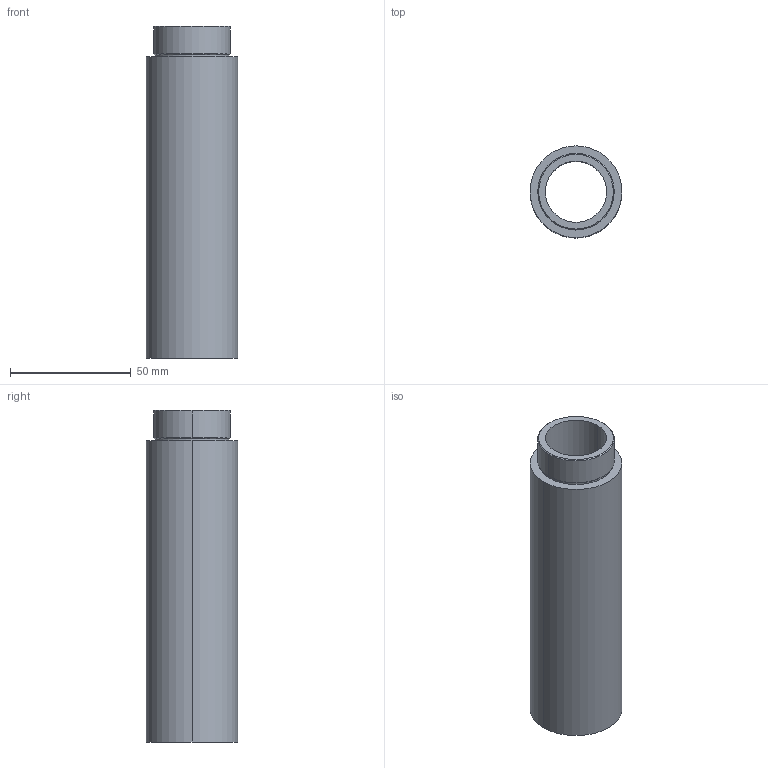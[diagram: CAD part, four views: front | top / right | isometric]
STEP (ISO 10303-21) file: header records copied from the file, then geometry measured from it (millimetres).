
FILE_DESCRIPTION (( 'STEP AP214' ), '1' );
FILE_NAME ('BTA-25-TM-TF-0125.STEP', '2017-01-30T15:29:18', ( '' ), ( '' ), 'SwSTEP 2.0', 'SolidWorks 2017', '' );
FILE_SCHEMA (( 'AUTOMOTIVE_DESIGN' ));
Length unit declared in the file: inch
Products named in the file (1): BTA-25-TM-TF-0125
Bounding box: 38.1 x 38.1 x 137.7 mm (x, y, z)
Volume: 79564.1 mm3; surface area: 28768.5 mm2
Topology: 1 solids, 1 shells, 24 faces, 48 edges, 28 vertices
Faces by surface type: cylinder 12, cone 8, plane 4
Entity records: 668 total; most frequent: DIRECTION 126, CARTESIAN_POINT 101, ORIENTED_EDGE 96, AXIS2_PLACEMENT_3D 53, EDGE_CURVE 48, CIRCLE 28, EDGE_LOOP 28, VERTEX_POINT 28
